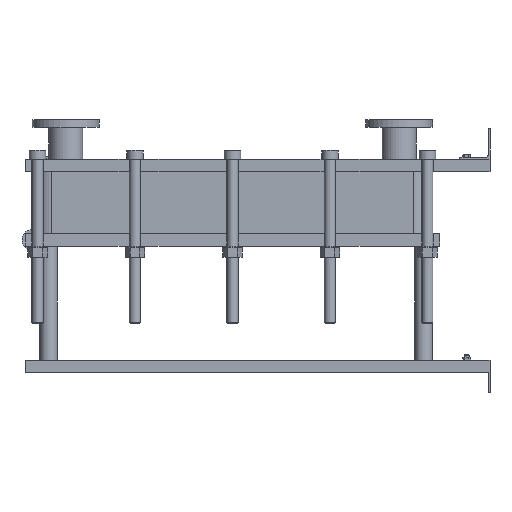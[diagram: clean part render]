
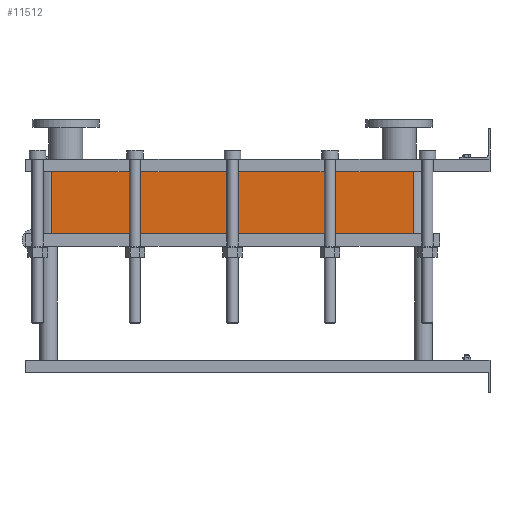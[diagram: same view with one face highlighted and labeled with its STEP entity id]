
A CAD part, left-side view. The second image highlights one B-rep face of the part: STEP entity #11512.
In plain terms, the highlighted planar face has unit normal (-1, 0, 0).
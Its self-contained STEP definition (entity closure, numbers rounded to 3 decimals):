
#1129=LINE('',#23232,#2102);
#1130=LINE('',#23236,#2103);
#1131=LINE('',#23238,#2104);
#1132=LINE('',#23239,#2105);
#2102=VECTOR('',#15887,10.);
#2103=VECTOR('',#15892,10.);
#2104=VECTOR('',#15893,10.);
#2105=VECTOR('',#15894,10.);
#3267=FACE_OUTER_BOUND('',#4093,.T.);
#4093=EDGE_LOOP('',(#10103,#10104,#10105,#10106));
#5642=VERTEX_POINT('',#23229);
#5643=VERTEX_POINT('',#23231);
#5644=VERTEX_POINT('',#23235);
#5645=VERTEX_POINT('',#23237);
#7159=EDGE_CURVE('',#5643,#5642,#1129,.T.);
#7161=EDGE_CURVE('',#5642,#5644,#1130,.T.);
#7162=EDGE_CURVE('',#5645,#5644,#1131,.T.);
#7163=EDGE_CURVE('',#5645,#5643,#1132,.T.);
#10103=ORIENTED_EDGE('',*,*,#7161,.T.);
#10104=ORIENTED_EDGE('',*,*,#7162,.F.);
#10105=ORIENTED_EDGE('',*,*,#7163,.T.);
#10106=ORIENTED_EDGE('',*,*,#7159,.T.);
#10857=PLANE('',#12751);
#11512=ADVANCED_FACE('',(#3267),#10857,.T.);
#12751=AXIS2_PLACEMENT_3D('',#23234,#15890,#15891);
#15887=DIRECTION('',(0.,0.,-1.));
#15890=DIRECTION('center_axis',(-1.,0.,0.));
#15891=DIRECTION('ref_axis',(0.,1.,0.));
#15892=DIRECTION('',(0.,-1.,0.));
#15893=DIRECTION('',(0.,0.,-1.));
#15894=DIRECTION('',(0.,1.,0.));
#23229=CARTESIAN_POINT('',(-200.,1414.,-200.1));
#23231=CARTESIAN_POINT('',(-200.,1414.,0.));
#23232=CARTESIAN_POINT('',(-200.,1414.,0.));
#23234=CARTESIAN_POINT('Origin',(-200.,248.,0.));
#23235=CARTESIAN_POINT('',(-200.,248.,-200.1));
#23236=CARTESIAN_POINT('',(-200.,539.5,-200.1));
#23237=CARTESIAN_POINT('',(-200.,248.,0.));
#23238=CARTESIAN_POINT('',(-200.,248.,0.));
#23239=CARTESIAN_POINT('',(-200.,248.,0.));
